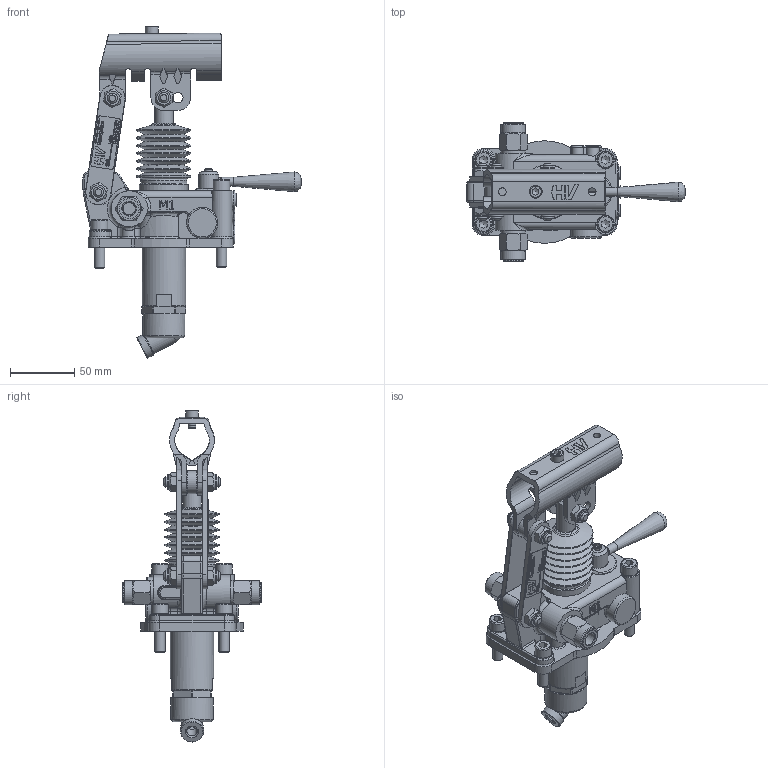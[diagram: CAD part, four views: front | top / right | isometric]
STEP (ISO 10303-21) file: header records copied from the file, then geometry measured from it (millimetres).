
FILE_DESCRIPTION((''),'2;1');
FILE_NAME('G:\HV_HYDRAULIC\AZIENDA_HV_HYDRAULIC\ARCHIVIO_DISEGNI\5_PRODOTTI_FINITI\1_POMPE_MANUALI\6060_PMDVB_12\6060.0101_PMDVB_12_cc-s_(HV)\6060.0101.stp','2024-03-07T13:33:26',('christian.scardovi'),(''),'Autodesk Inventor 2013','Autodesk Inventor 2013','');
FILE_SCHEMA(('AUTOMOTIVE_DESIGN { 1 0 10303 214 1 1 1 1 }'));
Length unit declared in the file: millimetre
Products named in the file (1): 6060.0101
Bounding box: 170 x 108 x 258.81 mm (x, y, z)
Volume: 463467.6 mm3; surface area: 116038.3 mm2
Topology: 3 solids, 3 shells, 1529 faces, 3865 edges, 2445 vertices
Faces by surface type: plane 768, cylinder 299, bspline 184, cone 153, torus 112, sphere 13
Full cylindrical faces by diameter (mm): 3 x1, 4 x1, 4.917 x1, 5 x3, 6 x8, 6.5 x1, 7 x1, 8 x15, 9 x1, 9.2 x1, 10 x7, 10.376 x1, 10.5 x2, 10.917 x2, 11.05 x6, 12 x5, 13 x4, 13.2 x1, 14 x4, 14.5 x1, 14.6 x1, 15 x1, 15.5 x2, 15.9 x2, 16 x4, 18 x4, 19 x4, 20 x2, 22 x1, 24 x1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
Entity records: 47853 total; most frequent: CARTESIAN_POINT 12463, ORIENTED_EDGE 7096, DIRECTION 6454, EDGE_CURVE 3548, VERTEX_POINT 2362, AXIS2_PLACEMENT_3D 2265, VECTOR 1924, LINE 1924
